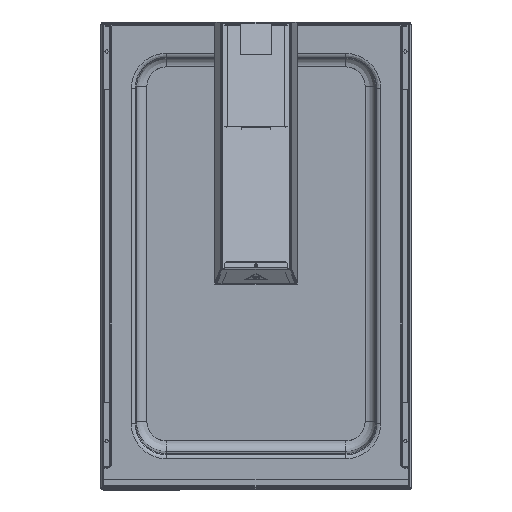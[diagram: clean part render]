
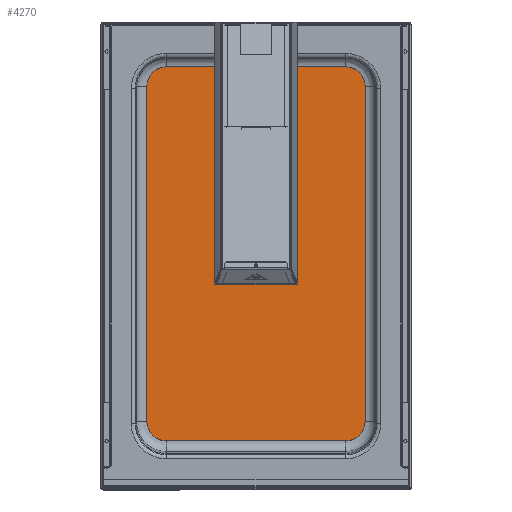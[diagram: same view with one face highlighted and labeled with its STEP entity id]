
A CAD part, top view. The second image highlights one B-rep face of the part: STEP entity #4270.
In plain terms, the highlighted planar face has unit normal (0, -0.019, 1).
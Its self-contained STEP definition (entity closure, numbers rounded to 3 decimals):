
#4270=ADVANCED_FACE('',(#7521),#56058,.T.);
#7521=FACE_OUTER_BOUND('',#10884,.T.);
#10884=EDGE_LOOP('',(#16457,#16458,#16459,#16460,#16461,#16462,#16463,#16464));
#16457=ORIENTED_EDGE('',*,*,#31217,.T.);
#16458=ORIENTED_EDGE('',*,*,#31238,.T.);
#16459=ORIENTED_EDGE('',*,*,#31218,.T.);
#16460=ORIENTED_EDGE('',*,*,#31234,.T.);
#16461=ORIENTED_EDGE('',*,*,#31219,.T.);
#16462=ORIENTED_EDGE('',*,*,#31240,.T.);
#16463=ORIENTED_EDGE('',*,*,#31220,.T.);
#16464=ORIENTED_EDGE('',*,*,#31246,.T.);
#31217=EDGE_CURVE('',#51490,#51491,#43866,.T.);
#31218=EDGE_CURVE('',#51492,#51493,#43867,.T.);
#31219=EDGE_CURVE('',#51494,#51495,#43868,.T.);
#31220=EDGE_CURVE('',#51496,#51497,#43869,.T.);
#31234=EDGE_CURVE('',#51493,#51494,#38506,.T.);
#31238=EDGE_CURVE('',#51491,#51492,#38509,.T.);
#31240=EDGE_CURVE('',#51495,#51496,#38511,.T.);
#31246=EDGE_CURVE('',#51497,#51490,#38516,.T.);
#38506=TRIMMED_CURVE($,#40993,(#79465),(#79466),.T.,.CARTESIAN.);
#38509=TRIMMED_CURVE($,#40996,(#79476),(#79477),.T.,.CARTESIAN.);
#38511=TRIMMED_CURVE($,#40998,(#79482),(#79483),.T.,.CARTESIAN.);
#38516=TRIMMED_CURVE($,#41003,(#79499),(#79500),.T.,.CARTESIAN.);
#40993=CIRCLE('',#60310,25.);
#40996=CIRCLE('',#60313,25.);
#40998=CIRCLE('',#60315,25.);
#41003=CIRCLE('',#60320,25.);
#43866=B_SPLINE_CURVE_WITH_KNOTS('',1,(#79425,#79426),.UNSPECIFIED.,.F.,
 .F.,(2,2),(0.,230.),.UNSPECIFIED.);
#43867=B_SPLINE_CURVE_WITH_KNOTS('',1,(#79427,#79428),.UNSPECIFIED.,.F.,
 .F.,(2,2),(0.,430.006),.UNSPECIFIED.);
#43868=B_SPLINE_CURVE_WITH_KNOTS('',1,(#79429,#79430),.UNSPECIFIED.,.F.,
 .F.,(2,2),(0.,230.),.UNSPECIFIED.);
#43869=B_SPLINE_CURVE_WITH_KNOTS('',1,(#79431,#79432),.UNSPECIFIED.,.F.,
 .F.,(2,2),(0.,430.006),.UNSPECIFIED.);
#51490=VERTEX_POINT('',#76298);
#51491=VERTEX_POINT('',#76299);
#51492=VERTEX_POINT('',#76300);
#51493=VERTEX_POINT('',#76301);
#51494=VERTEX_POINT('',#76302);
#51495=VERTEX_POINT('',#76303);
#51496=VERTEX_POINT('',#76304);
#51497=VERTEX_POINT('',#76305);
#56058=PLANE('',#59824);
#59824=AXIS2_PLACEMENT_3D('',#74186,#65491,$);
#60310=AXIS2_PLACEMENT_3D($,#79464,#66399,#66400);
#60313=AXIS2_PLACEMENT_3D($,#79475,#66405,#66406);
#60315=AXIS2_PLACEMENT_3D($,#79481,#66409,#66410);
#60320=AXIS2_PLACEMENT_3D($,#79498,#66419,#66420);
#65491=DIRECTION('',(0.,-0.019,1.));
#66399=DIRECTION('',(0.,-0.019,1.));
#66400=DIRECTION('',(-1.,0.,0.));
#66405=DIRECTION('',(0.,-0.019,1.));
#66406=DIRECTION('',(0.,1.,0.019));
#66409=DIRECTION('',(0.,-0.019,1.));
#66410=DIRECTION('',(0.,-1.,-0.019));
#66419=DIRECTION('',(0.,-0.019,1.));
#66420=DIRECTION('',(1.,0.,0.));
#74186=CARTESIAN_POINT('',(168.,-55.683,675.381));
#76298=CARTESIAN_POINT('',(115.,472.227,685.517));
#76299=CARTESIAN_POINT('',(-115.,472.227,685.517));
#76300=CARTESIAN_POINT('',(-140.,447.231,685.037));
#76301=CARTESIAN_POINT('',(-140.,17.305,676.782));
#76302=CARTESIAN_POINT('',(-115.,-7.691,676.302));
#76303=CARTESIAN_POINT('',(115.,-7.691,676.302));
#76304=CARTESIAN_POINT('',(140.,17.305,676.782));
#76305=CARTESIAN_POINT('',(140.,447.231,685.037));
#79425=CARTESIAN_POINT('',(115.,472.227,685.517));
#79426=CARTESIAN_POINT('',(-115.,472.227,685.517));
#79427=CARTESIAN_POINT('',(-140.,447.231,685.037));
#79428=CARTESIAN_POINT('',(-140.,17.305,676.782));
#79429=CARTESIAN_POINT('',(-115.,-7.691,676.302));
#79430=CARTESIAN_POINT('',(115.,-7.691,676.302));
#79431=CARTESIAN_POINT('',(140.,17.305,676.782));
#79432=CARTESIAN_POINT('',(140.,447.231,685.037));
#79464=CARTESIAN_POINT('',(-115.,17.305,676.782));
#79465=CARTESIAN_POINT('',(-140.,17.305,676.782));
#79466=CARTESIAN_POINT('',(-115.,-7.691,676.302));
#79475=CARTESIAN_POINT('',(-115.,447.231,685.037));
#79476=CARTESIAN_POINT('',(-115.,472.227,685.517));
#79477=CARTESIAN_POINT('',(-140.,447.231,685.037));
#79481=CARTESIAN_POINT('',(115.,17.305,676.782));
#79482=CARTESIAN_POINT('',(115.,-7.691,676.302));
#79483=CARTESIAN_POINT('',(140.,17.305,676.782));
#79498=CARTESIAN_POINT('',(115.,447.231,685.037));
#79499=CARTESIAN_POINT('',(140.,447.231,685.037));
#79500=CARTESIAN_POINT('',(115.,472.227,685.517));
